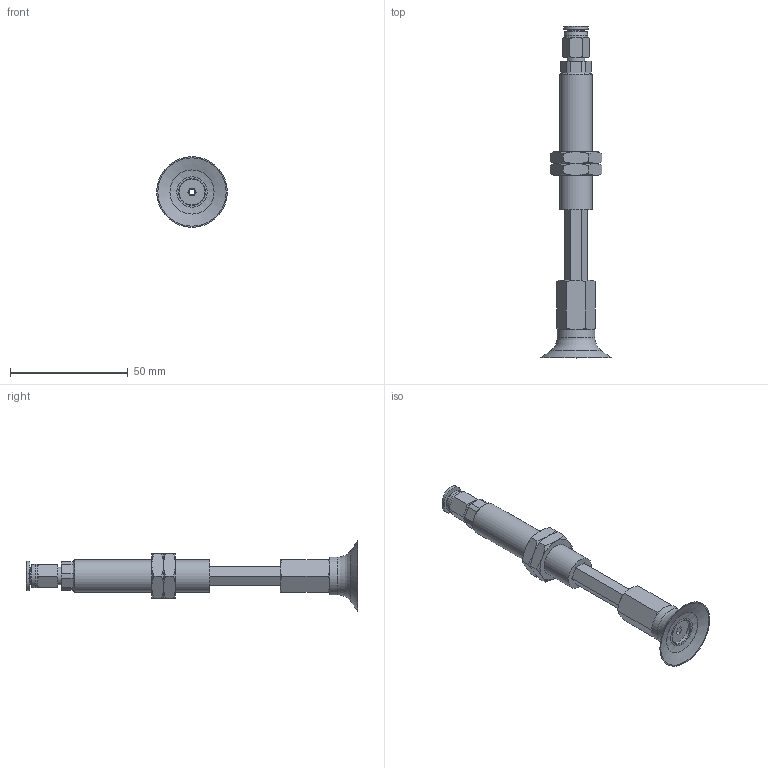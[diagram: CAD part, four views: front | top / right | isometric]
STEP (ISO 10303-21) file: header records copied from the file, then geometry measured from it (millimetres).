
FILE_DESCRIPTION(('STEP AP203'),'1');
FILE_NAME('-O.stp','2025-08-27T03:24:33',(' '),(' '),'Spatial InterOp 3D',' ',' ');
FILE_SCHEMA(('CONFIG_CONTROL_DESIGN'));
Length unit declared in the file: millimetre
Products named in the file (8): BNABPFTH-30-30-※-O; ADAPTER; NAPFTH-30-30-MBODY; TN-PF-30-M6-NAPF; Nut-30-30-h; NAPFTH-30-30-FBODY; BPFG-30-※; PC-C_06-M5
Assembly tree (8 placements, depth 2):
  BNABPFTH-30-30-※-O
    ADAPTER
    NAPFTH-30-30-MBODY
    TN-PF-30-M6-NAPF
    Nut-30-30-h  x2
    NAPFTH-30-30-FBODY
    BPFG-30-※
    PC-C_06-M5
Bounding box: 30 x 140.98 x 30 mm (x, y, z)
Volume: 18527.4 mm3; surface area: 15435.7 mm2
Topology: 7 solids, 10 shells, 190 faces, 404 edges, 245 vertices
Faces by surface type: plane 85, cone 62, cylinder 28, torus 7, bspline 5, revolution 3
Full cylindrical faces by diameter (mm): 3 x3, 4 x2, 4.134 x1, 4.917 x1, 5 x1, 6 x2, 7 x1, 7.4 x1, 8.2 x1, 10 x1, 11 x2, 12.917 x2, 14 x1, 16 x1
Entity records: 5129 total; most frequent: CARTESIAN_POINT 1410, DIRECTION 687, ORIENTED_EDGE 616, EDGE_CURVE 310, AXIS2_PLACEMENT_3D 285, EDGE_LOOP 234, VERTEX_POINT 212, FACE_OUTER_BOUND 134
